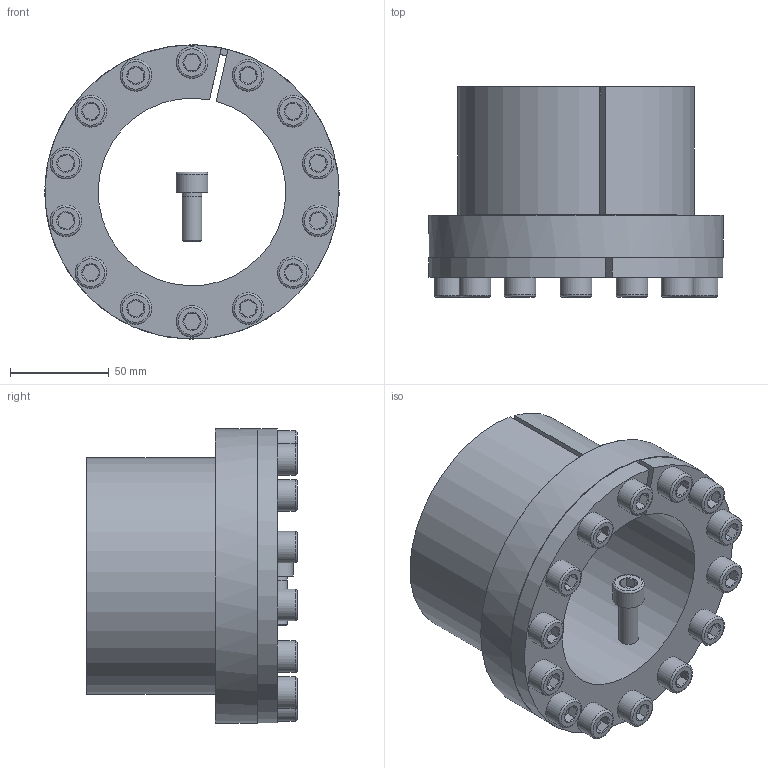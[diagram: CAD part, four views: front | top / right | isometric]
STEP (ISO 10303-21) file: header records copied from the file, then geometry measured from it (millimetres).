
FILE_DESCRIPTION( ( 'Unknown' ), '1' );
FILE_NAME( 'C:/Dokumente und Einstellungen/Sven/Desktop/homepage/cad - homepage/KBS80/KBS 80 - 95 x 120.stp', 'Unknown', ( 'Unknown' ), ( 'Unknown' ), 'XStep 1.0', 'Unknown', ' ' );
FILE_SCHEMA( ( 'automotive_design' ) );
Length unit declared in the file: millimetre
Products named in the file (16): Assem1; KBS 80 - 95 x 120; ISO EN DIN 4762 M10x25; ISO EN DIN 4762 M10x25-oa0; ISO EN DIN 4762 M10x25-oa1; ISO EN DIN 4762 M10x25-oa2; ISO EN DIN 4762 M10x25-oa3; ISO EN DIN 4762 M10x25-oa4; ISO EN DIN 4762 M10x25-oa5; ISO EN DIN 4762 M10x25-oa6; ISO EN DIN 4762 M10x25-oa7; ISO EN DIN 4762 M10x25-oa8; ISO EN DIN 4762 M10x25-oa9; ISO EN DIN 4762 M10x25-oa10; ISO EN DIN 4762 M10x25-oa11; ISO EN DIN 4762 M10x25-oa12
Bounding box: 149 x 106.5 x 149 mm (x, y, z)
Volume: 1218691.6 mm3; surface area: 257213.8 mm2
Topology: 30 solids, 30 shells, 768 faces, 1418 edges, 820 vertices
Faces by surface type: plane 352, cone 210, cylinder 150, torus 56
Full cylindrical faces by diameter (mm): 9 x28, 10 x84, 16 x28, 149 x2
Entity records: 9481 total; most frequent: CARTESIAN_POINT 2011, DIRECTION 1556, ORIENTED_EDGE 1126, AXIS2_PLACEMENT_3D 685, EDGE_LOOP 585, EDGE_CURVE 563, FACE_OUTER_BOUND 483, ADVANCED_FACE 384
